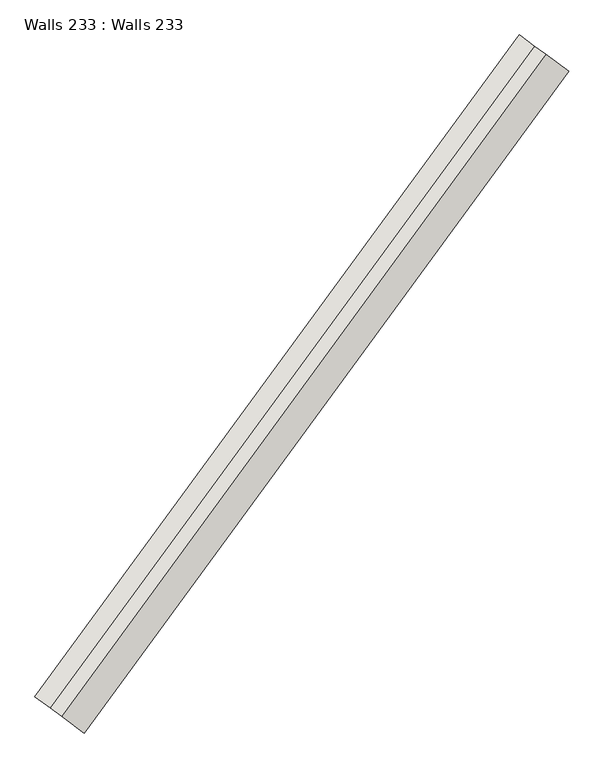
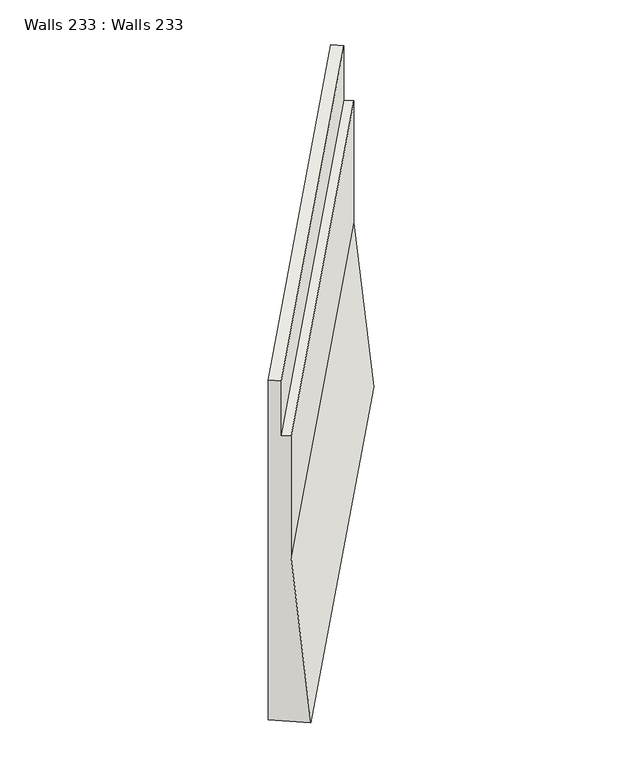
"""IFC4 building model written with IfcOpenShell, lengths in millimetres: wall geometry, Walls 233 : Walls 233."""

from ifc_helpers import new_model, si_unit, origin, place, context, project, spatial, faceted_brep, source, transform, mapped, element, save


def walls_233_walls_233_143f5d0c(model_context):
    return source(origin(), model_context, "Body", "Brep", [
        faceted_brep([(442999.9254013, 326942.6414886, 646723.6), (442757.9149112, 327119.929172, 649723.6), (442757.9149112, 327119.929172, 651970.3), (442636.9096662, 327208.5730138, 651970.3), (442636.9096662, 327208.5730138, 652970.3), (442475.5693395, 327326.7648027, 652970.3), (442475.5693395, 327326.7648027, 646723.6), (448141.2682224, 333960.9457002, 646835.8), (447616.9121607, 334345.0690144, 646835.8), (447616.9121607, 334345.0690144, 653079.2), (447778.2524874, 334226.8772254, 653079.2), (447778.2524874, 334226.8772254, 652079.2), (447899.2577324, 334138.2333837, 652079.2), (447899.2577324, 334138.2333837, 649835.8)], [[[0, 1, 2, 3, 4, 5, 6]], [[7, 8, 9, 10, 11, 12, 13]], [[7, 13, 1, 0]], [[13, 12, 2, 1]], [[12, 11, 3, 2]], [[11, 10, 4, 3]], [[10, 9, 5, 4]], [[9, 8, 6, 5]], [[8, 7, 0, 6]]]),
    ])


if __name__ == "__main__":
    model = new_model("IFC4")
    model_context = context("Model", 3, world=origin())
    ifc_project = project(units=[si_unit("LENGTHUNIT", "METRE", prefix="MILLI")], contexts=[model_context])
    site = spatial("IfcSite", under=ifc_project)
    building = spatial("IfcBuilding", under=site)
    placement = place(None, origin())
    walls_233_walls_233_shape = walls_233_walls_233_143f5d0c(model_context)
    element("IfcWall", 1, ObjectType="Walls 233 : Walls 233", at=placement, inside=building, context=model_context, shape_type="MappedRepresentation", body=[
        mapped(walls_233_walls_233_shape, transform((0.0, 0.0, 0.0), x_axis=(1.0, 0.0, 0.0), y_axis=(0.0, 1.0, 0.0), z_axis=(0.0, 0.0, 1.0))),
    ])
    save(model, "model.ifc")
